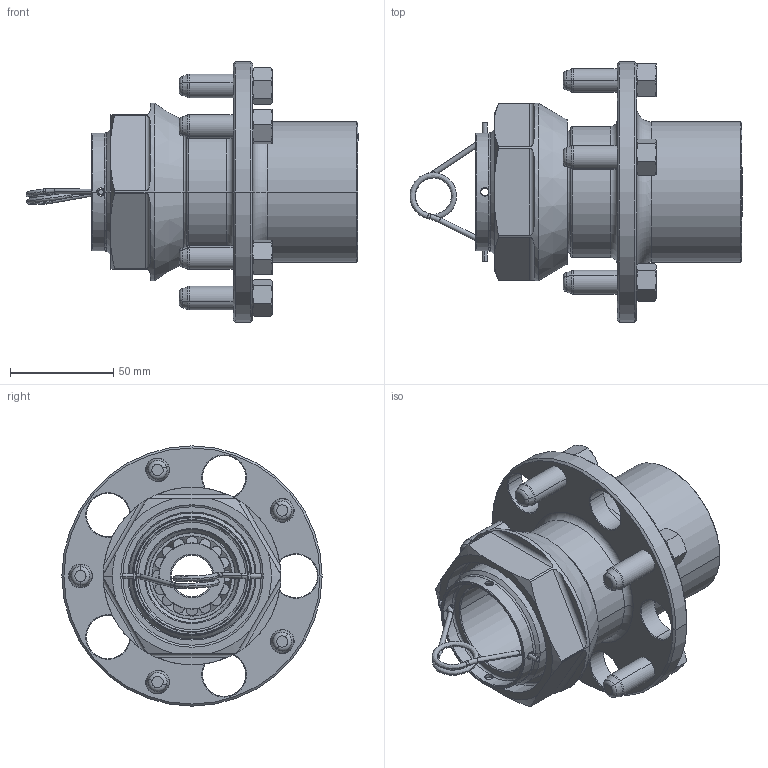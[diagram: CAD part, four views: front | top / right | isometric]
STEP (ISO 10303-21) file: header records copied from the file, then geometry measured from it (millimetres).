
FILE_DESCRIPTION (( 'STEP AP203' ), '1' );
FILE_NAME ('Alfa Romeo Group.A center lock hub assembly.STEP', '2025-03-02T19:05:16', ( '' ), ( '' ), 'SwSTEP 2.0', 'SolidWorks 2019', '' );
FILE_SCHEMA (( 'CONFIG_CONTROL_DESIGN' ));
Length unit declared in the file: millimetre
Products named in the file (1): Alfa Romeo Group.A center lock hub assembly
Bounding box: 160.74 x 126 x 126 mm (x, y, z)
Volume: 386650.7 mm3; surface area: 136877.6 mm2
Topology: 20 solids, 20 shells, 731 faces, 1621 edges, 995 vertices
Faces by surface type: cone 263, torus 162, plane 162, cylinder 142, bspline 2
Entity records: 24520 total; most frequent: CARTESIAN_POINT 8127, DIRECTION 3621, ORIENTED_EDGE 3242, EDGE_CURVE 1621, AXIS2_PLACEMENT_3D 1613, VERTEX_POINT 995, CIRCLE 883, EDGE_LOOP 854
